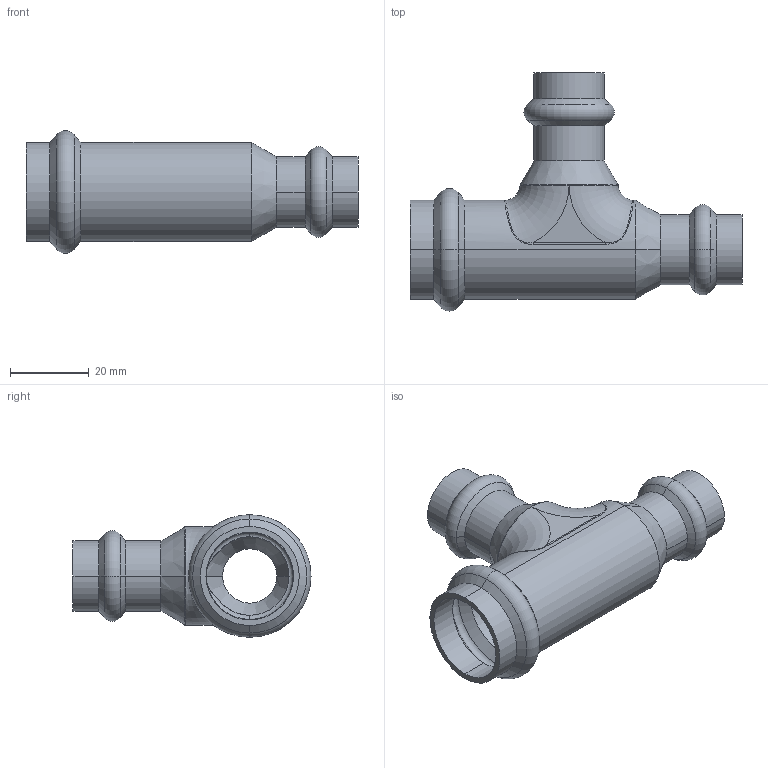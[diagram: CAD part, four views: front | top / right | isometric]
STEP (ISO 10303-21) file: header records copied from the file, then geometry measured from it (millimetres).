
FILE_DESCRIPTION (( 'STEP AP203' ), '1' );
FILE_NAME ('SP5130 Ø22-15-15.STEP', '2017-04-24T13:10:39', ( '' ), ( '' ), 'SwSTEP 2.0', 'SolidWorks 2016', '' );
FILE_SCHEMA (( 'CONFIG_CONTROL_DESIGN' ));
Length unit declared in the file: millimetre
Products named in the file (1): SP5130 Ø22-15-15
Bounding box: 84.5 x 60.6 x 31.2 mm (x, y, z)
Volume: 14753.8 mm3; surface area: 16456 mm2
Topology: 1 solids, 1 shells, 103 faces, 234 edges, 130 vertices
Faces by surface type: cone 36, cylinder 35, torus 20, bspline 6, plane 6
Entity records: 4461 total; most frequent: CARTESIAN_POINT 2074, DIRECTION 536, ORIENTED_EDGE 460, AXIS2_PLACEMENT_3D 232, EDGE_CURVE 230, CIRCLE 134, VERTEX_POINT 130, EDGE_LOOP 108
